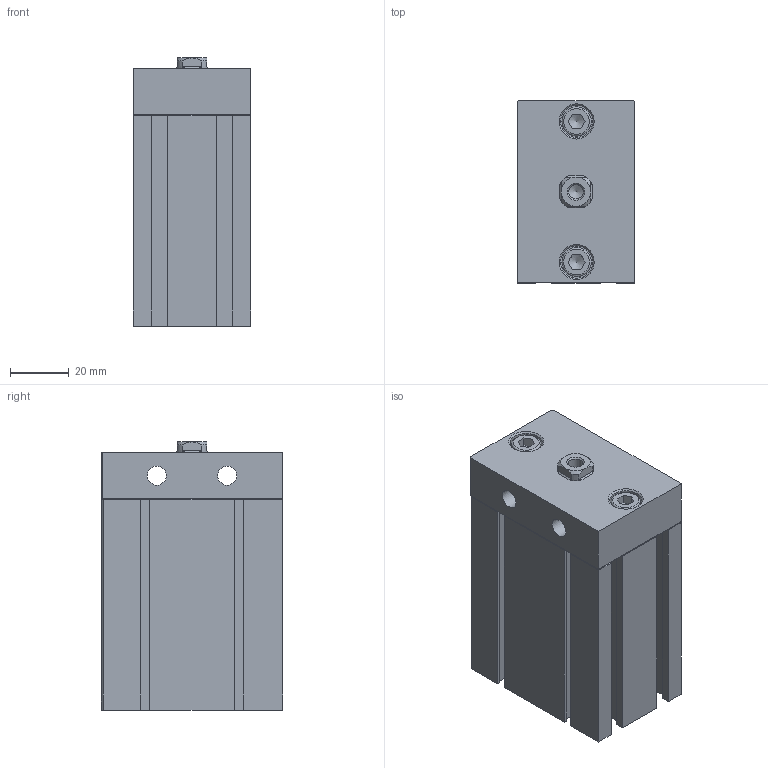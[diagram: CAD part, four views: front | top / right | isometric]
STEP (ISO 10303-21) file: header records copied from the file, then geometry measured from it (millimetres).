
FILE_DESCRIPTION((''),'2;1');
FILE_NAME('I:\3D電子目錄\氣缸\ND\ND\ND32\ND32x40.stp','2007-07-30T20:19:06',('Administrator'),(''),'Autodesk Inventor 11','Autodesk Inventor 11','');
FILE_SCHEMA(('AUTOMOTIVE_DESIGN { 1 0 10303 214 1 1 1 1 }'));
Length unit declared in the file: millimetre
Products named in the file (4): ND32; R 形環 34; ISO 4762 M6 x 16
Assembly tree (4 placements, depth 2):
  ND32
    ND32
    R 形環 34
    ISO 4762 M6 x 16  x2
Bounding box: 40 x 62.1 x 91.5 mm (x, y, z)
Volume: 194241.8 mm3; surface area: 37776 mm2
Topology: 5 solids, 5 shells, 195 faces, 467 edges, 297 vertices
Faces by surface type: plane 133, cylinder 25, cone 18, bspline 16, torus 3
Full cylindrical faces by diameter (mm): 1.9 x2, 2.2 x2, 6 x2, 6.5 x2, 10 x2, 11 x2, 23 x1, 34 x1, 36 x1
Entity records: 5217 total; most frequent: CARTESIAN_POINT 1095, DIRECTION 812, ORIENTED_EDGE 782, EDGE_CURVE 391, VECTOR 288, LINE 288, VERTEX_POINT 271, AXIS2_PLACEMENT_3D 262
